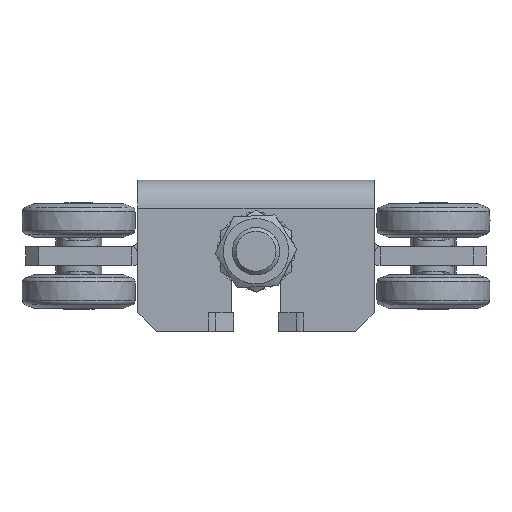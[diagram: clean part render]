
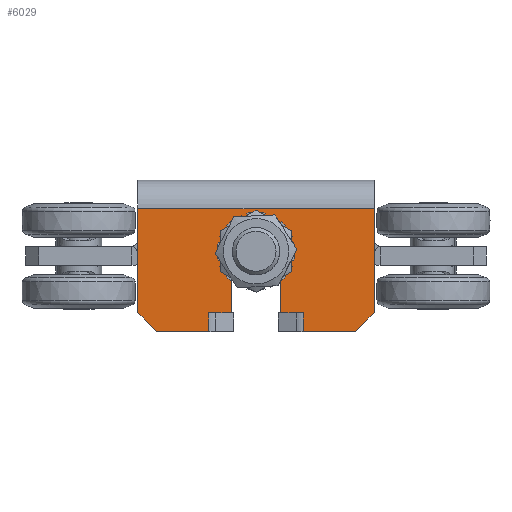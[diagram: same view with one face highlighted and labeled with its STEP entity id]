
A CAD part, front view. The second image highlights one B-rep face of the part: STEP entity #6029.
In plain terms, the highlighted planar face has unit normal (0, -1, 0) as drawn and (0, 0, -1) by its records, which use the part's own axes.
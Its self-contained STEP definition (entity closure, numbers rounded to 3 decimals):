
#428=FACE_OUTER_BOUND('',#782,.T.);
#782=EDGE_LOOP('',(#4354,#4355,#4356,#4357,#4358,#4359,#4360,#4361,#4362,
#4363,#4364,#4365,#4366,#4367,#4368,#4369,#4370,#4371));
#1157=LINE('',#9382,#1690);
#1176=LINE('',#9422,#1709);
#1183=LINE('',#9442,#1716);
#1186=LINE('',#9448,#1719);
#1187=LINE('',#9451,#1720);
#1189=LINE('',#9456,#1722);
#1192=LINE('',#9460,#1725);
#1194=LINE('',#9464,#1727);
#1195=LINE('',#9467,#1728);
#1197=LINE('',#9471,#1730);
#1199=LINE('',#9475,#1732);
#1231=LINE('',#9560,#1764);
#1232=LINE('',#9564,#1765);
#1234=LINE('',#9568,#1767);
#1235=LINE('',#9570,#1768);
#1236=LINE('',#9572,#1769);
#1237=LINE('',#9573,#1770);
#1690=VECTOR('',#7465,10.);
#1709=VECTOR('',#7492,10.);
#1716=VECTOR('',#7513,10.);
#1719=VECTOR('',#7520,10.);
#1720=VECTOR('',#7523,10.);
#1722=VECTOR('',#7527,10.);
#1725=VECTOR('',#7532,10.);
#1727=VECTOR('',#7536,10.);
#1728=VECTOR('',#7539,10.);
#1730=VECTOR('',#7543,10.);
#1732=VECTOR('',#7547,10.);
#1764=VECTOR('',#7641,10.);
#1765=VECTOR('',#7646,10.);
#1767=VECTOR('',#7650,10.);
#1768=VECTOR('',#7653,10.);
#1769=VECTOR('',#7654,10.);
#1770=VECTOR('',#7655,10.);
#2164=CIRCLE('',#6624,10.5);
#2523=VERTEX_POINT('',#9364);
#2526=VERTEX_POINT('',#9372);
#2546=VERTEX_POINT('',#9421);
#2548=VERTEX_POINT('',#9426);
#2550=VERTEX_POINT('',#9433);
#2553=VERTEX_POINT('',#9446);
#2554=VERTEX_POINT('',#9450);
#2555=VERTEX_POINT('',#9454);
#2556=VERTEX_POINT('',#9455);
#2557=VERTEX_POINT('',#9462);
#2558=VERTEX_POINT('',#9466);
#2559=VERTEX_POINT('',#9470);
#2560=VERTEX_POINT('',#9474);
#2581=VERTEX_POINT('',#9550);
#2582=VERTEX_POINT('',#9555);
#2583=VERTEX_POINT('',#9563);
#2584=VERTEX_POINT('',#9567);
#2585=VERTEX_POINT('',#9571);
#3166=EDGE_CURVE('',#2526,#2523,#1157,.T.);
#3186=EDGE_CURVE('',#2526,#2546,#1176,.T.);
#3197=EDGE_CURVE('',#2550,#2548,#1183,.T.);
#3200=EDGE_CURVE('',#2553,#2548,#1186,.T.);
#3201=EDGE_CURVE('',#2554,#2550,#1187,.T.);
#3203=EDGE_CURVE('',#2555,#2556,#1189,.T.);
#3206=EDGE_CURVE('',#2556,#2554,#1192,.T.);
#3208=EDGE_CURVE('',#2523,#2557,#1194,.T.);
#3209=EDGE_CURVE('',#2557,#2558,#1195,.T.);
#3211=EDGE_CURVE('',#2558,#2559,#1197,.T.);
#3213=EDGE_CURVE('',#2555,#2560,#1199,.T.);
#3257=EDGE_CURVE('',#2582,#2581,#1231,.T.);
#3258=EDGE_CURVE('',#2582,#2583,#1232,.T.);
#3260=EDGE_CURVE('',#2584,#2559,#1234,.T.);
#3261=EDGE_CURVE('',#2560,#2584,#2164,.T.);
#3262=EDGE_CURVE('',#2583,#2553,#1235,.T.);
#3263=EDGE_CURVE('',#2585,#2581,#1236,.T.);
#3264=EDGE_CURVE('',#2546,#2585,#1237,.T.);
#4354=ORIENTED_EDGE('',*,*,#3166,.T.);
#4355=ORIENTED_EDGE('',*,*,#3208,.T.);
#4356=ORIENTED_EDGE('',*,*,#3209,.T.);
#4357=ORIENTED_EDGE('',*,*,#3211,.T.);
#4358=ORIENTED_EDGE('',*,*,#3260,.F.);
#4359=ORIENTED_EDGE('',*,*,#3261,.F.);
#4360=ORIENTED_EDGE('',*,*,#3213,.F.);
#4361=ORIENTED_EDGE('',*,*,#3203,.T.);
#4362=ORIENTED_EDGE('',*,*,#3206,.T.);
#4363=ORIENTED_EDGE('',*,*,#3201,.T.);
#4364=ORIENTED_EDGE('',*,*,#3197,.T.);
#4365=ORIENTED_EDGE('',*,*,#3200,.F.);
#4366=ORIENTED_EDGE('',*,*,#3262,.F.);
#4367=ORIENTED_EDGE('',*,*,#3258,.F.);
#4368=ORIENTED_EDGE('',*,*,#3257,.T.);
#4369=ORIENTED_EDGE('',*,*,#3263,.F.);
#4370=ORIENTED_EDGE('',*,*,#3264,.F.);
#4371=ORIENTED_EDGE('',*,*,#3186,.F.);
#5814=PLANE('',#6623);
#6029=ADVANCED_FACE('',(#428),#5814,.F.);
#6623=AXIS2_PLACEMENT_3D('',#9566,#7648,#7649);
#6624=AXIS2_PLACEMENT_3D('',#9569,#7651,#7652);
#7465=DIRECTION('',(1.,0.,0.));
#7492=DIRECTION('',(0.,-1.,0.));
#7513=DIRECTION('',(-1.,0.,0.));
#7520=DIRECTION('',(0.,-1.,0.));
#7523=DIRECTION('',(0.,-1.,0.));
#7527=DIRECTION('',(0.,1.,0.));
#7532=DIRECTION('',(-1.,0.,0.));
#7536=DIRECTION('',(0.,-1.,0.));
#7539=DIRECTION('',(1.,0.,0.));
#7543=DIRECTION('',(0.,1.,0.));
#7547=DIRECTION('',(1.,0.,0.));
#7641=DIRECTION('',(0.,-1.,0.));
#7646=DIRECTION('',(-1.,0.,0.));
#7648=DIRECTION('center_axis',(0.,0.,1.));
#7649=DIRECTION('ref_axis',(1.,0.,0.));
#7650=DIRECTION('',(-1.,0.,0.));
#7651=DIRECTION('center_axis',(0.,0.,-1.));
#7652=DIRECTION('ref_axis',(0.,-1.,0.));
#7653=DIRECTION('',(-0.707,-0.707,0.));
#7654=DIRECTION('',(1.,0.,0.));
#7655=DIRECTION('',(0.707,-0.707,0.));
#9364=CARTESIAN_POINT('',(-26.,-19.99,-8.));
#9372=CARTESIAN_POINT('',(-34.,-19.99,-8.));
#9382=CARTESIAN_POINT('',(1.148,-19.99,-8.));
#9421=CARTESIAN_POINT('',(-34.,-42.,-8.));
#9422=CARTESIAN_POINT('',(-34.,-42.,-8.));
#9426=CARTESIAN_POINT('',(-34.,19.99,-8.));
#9433=CARTESIAN_POINT('',(-26.,19.99,-8.));
#9442=CARTESIAN_POINT('',(5.148,19.99,-8.));
#9446=CARTESIAN_POINT('',(-34.,42.,-8.));
#9448=CARTESIAN_POINT('',(-34.,10.5,-8.));
#9450=CARTESIAN_POINT('',(-26.,20.,-8.));
#9451=CARTESIAN_POINT('',(-26.,10.,-8.));
#9454=CARTESIAN_POINT('',(-25.99,10.5,-8.));
#9455=CARTESIAN_POINT('',(-25.99,20.,-8.));
#9456=CARTESIAN_POINT('',(-25.99,5.25,-8.));
#9460=CARTESIAN_POINT('',(5.153,20.,-8.));
#9462=CARTESIAN_POINT('',(-26.,-20.,-8.));
#9464=CARTESIAN_POINT('',(-26.,-5.25,-8.));
#9466=CARTESIAN_POINT('',(-25.99,-20.,-8.));
#9467=CARTESIAN_POINT('',(5.148,-20.,-8.));
#9470=CARTESIAN_POINT('',(-25.99,-10.5,-8.));
#9471=CARTESIAN_POINT('',(-25.99,-10.,-8.));
#9474=CARTESIAN_POINT('',(0.,10.5,-8.));
#9475=CARTESIAN_POINT('',(0.,10.5,-8.));
#9550=CARTESIAN_POINT('',(18.,-50.,-8.));
#9555=CARTESIAN_POINT('',(18.,50.,-8.));
#9560=CARTESIAN_POINT('',(18.,25.,-8.));
#9563=CARTESIAN_POINT('',(-26.,50.,-8.));
#9564=CARTESIAN_POINT('',(-26.,50.,-8.));
#9566=CARTESIAN_POINT('Origin',(36.295,0.,-8.));
#9567=CARTESIAN_POINT('',(0.,-10.5,-8.));
#9568=CARTESIAN_POINT('',(-34.,-10.5,-8.));
#9569=CARTESIAN_POINT('Origin',(0.,0.,-8.));
#9570=CARTESIAN_POINT('',(-34.,42.,-8.));
#9571=CARTESIAN_POINT('',(-26.,-50.,-8.));
#9572=CARTESIAN_POINT('',(81.,-50.,-8.));
#9573=CARTESIAN_POINT('',(-26.,-50.,-8.));
